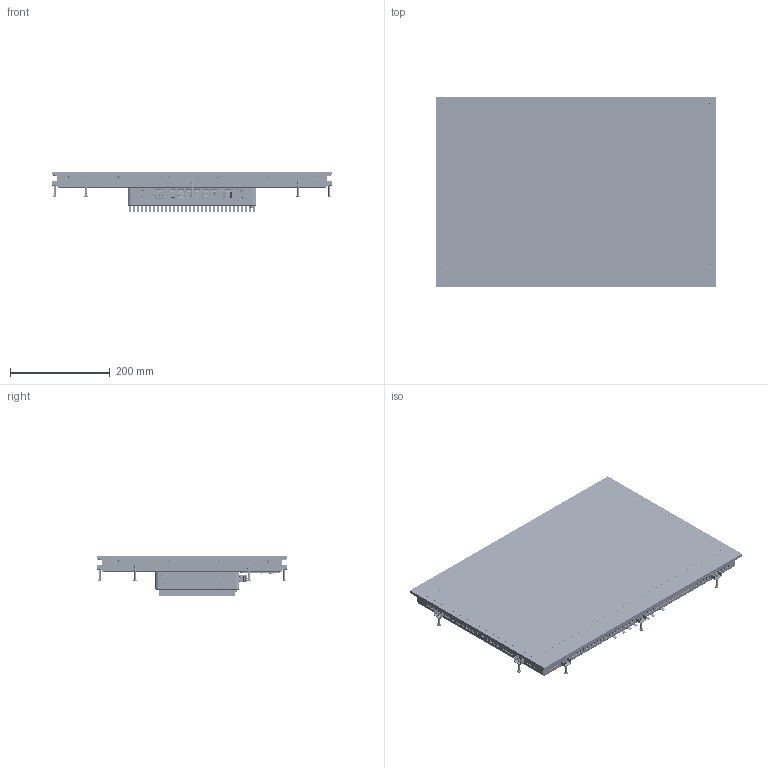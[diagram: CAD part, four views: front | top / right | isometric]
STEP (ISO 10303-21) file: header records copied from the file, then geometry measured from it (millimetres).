
FILE_DESCRIPTION(/* description */ (''),/* implementation_level */ '2;1');
FILE_NAME(/* name */ 'D:\Modelle vereinfacht\notion.S\CPU 6\21.5 Zoll\778-11983-01_EXTERN2.stp',/* time_stamp */ '2025-07-09T13:34:13+02:00',/* author */ ('Blessing'),/* organization */ (''),/* preprocessor_version */ 'ST-DEVELOPER v18.1',/* originating_system */ 'Autodesk Inventor 2021',/* authorisation */ '');
FILE_SCHEMA (('AUTOMOTIVE_DESIGN { 1 0 10303 214 3 1 1 }'));
Products named in the file (8): Baugruppe129; 778-11983-01_EXTERN1; 778-90247_EXTERN_21.5; 778-90247-001_IAM_000; 778-90247-002_IPT_000; 778-90247-003_IPT_000; 64-196-296_EXTERN_CPU6; 64-196-296_IPT_000
Assembly tree (23 placements, depth 4):
  Baugruppe129
    778-11983-01_EXTERN1
    778-90247_EXTERN_21.5
      778-90247-001_IAM_000  x10
        778-90247-002_IPT_000
        778-90247-003_IPT_000
    64-196-296_EXTERN_CPU6
      64-196-296_IPT_000  x8
Bounding box: 560.6 x 380.6 x 79.4 mm (x, y, z)
Volume: 7984794.8 mm3; surface area: 731582.9 mm2
Topology: 29 solids, 53 shells, 15012 faces, 42264 edges, 27568 vertices
Faces by surface type: plane 10154, cylinder 3188, bspline 857, cone 415, torus 357, sphere 41
Full cylindrical faces by diameter (mm): 0.434 x1, 0.457 x1, 0.5 x11, 0.6 x3, 0.65 x8, 0.8 x1, 0.85 x1, 0.95 x8, 1.1 x1, 1.2 x2, 1.4 x2, 2.156 x2, 2.5 x4, 2.8 x2, 3.242 x10, 4 x12, 4.7 x8, 5.54 x29, 6 x12, 6.2 x12, 7 x1, 7.2 x12
Entity records: 453313 total; most frequent: CARTESIAN_POINT 109402, ORIENTED_EDGE 71749, DIRECTION 63072, EDGE_CURVE 36606, LINE 28090, VECTOR 28090, VERTEX_POINT 23973, AXIS2_PLACEMENT_3D 17491
